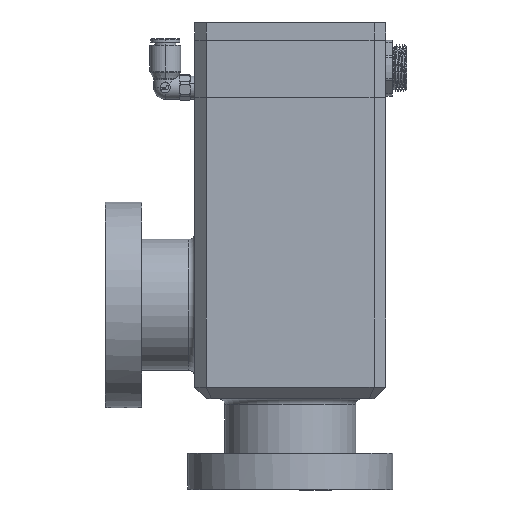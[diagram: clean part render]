
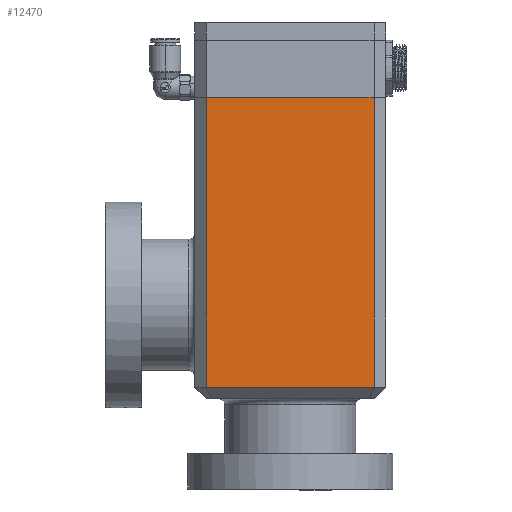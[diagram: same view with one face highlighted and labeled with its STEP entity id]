
A CAD part, front view. The second image highlights one B-rep face of the part: STEP entity #12470.
In plain terms, the highlighted planar face has unit normal (0, -1, 0).
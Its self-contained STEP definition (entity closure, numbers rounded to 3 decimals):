
#5746 = LINE ( 'NONE', #20810, #34606 ) ;
#6746 = LINE ( 'NONE', #30788, #37346 ) ;
#6750 = VERTEX_POINT ( 'NONE', #14326 ) ;
#11840 = EDGE_CURVE ( 'NONE', #59086, #6750, #5746, .T. ) ;
#12470 = ADVANCED_FACE ( 'NONE', ( #56128 ), #50998, .F. ) ;
#14326 = CARTESIAN_POINT ( 'NONE',  ( 28.5, -32.5, 102.5 ) ) ;
#16576 = VERTEX_POINT ( 'NONE', #30795 ) ;
#17773 = VECTOR ( 'NONE', #32027, 1000. ) ;
#19546 = EDGE_CURVE ( 'NONE', #59086, #16576, #27511, .T. ) ;
#20810 = CARTESIAN_POINT ( 'NONE',  ( -32.5, -32.5, 102.5 ) ) ;
#20865 = DIRECTION ( 'NONE',  ( 0., 1., 0. ) ) ;
#21486 = CARTESIAN_POINT ( 'NONE',  ( -32.5, -32.5, 102.5 ) ) ;
#27511 = LINE ( 'NONE', #47094, #17773 ) ;
#30788 = CARTESIAN_POINT ( 'NONE',  ( 22.843, -32.5, 4. ) ) ;
#30795 = CARTESIAN_POINT ( 'NONE',  ( -28.5, -32.5, 4. ) ) ;
#32027 = DIRECTION ( 'NONE',  ( 0., 0., -1. ) ) ;
#32752 = CARTESIAN_POINT ( 'NONE',  ( 28.5, -32.5, 4. ) ) ;
#34018 = EDGE_LOOP ( 'NONE', ( #39187, #36383, #63455, #44698 ) ) ;
#34606 = VECTOR ( 'NONE', #49682, 1000. ) ;
#34936 = DIRECTION ( 'NONE',  ( 0., 0., 1. ) ) ;
#36383 = ORIENTED_EDGE ( 'NONE', *, *, #52150, .T. ) ;
#37346 = VECTOR ( 'NONE', #45556, 1000. ) ;
#37649 = AXIS2_PLACEMENT_3D ( 'NONE', #21486, #20865, #45868 ) ;
#39187 = ORIENTED_EDGE ( 'NONE', *, *, #19546, .T. ) ;
#41700 = EDGE_CURVE ( 'NONE', #51857, #6750, #62864, .T. ) ;
#44698 = ORIENTED_EDGE ( 'NONE', *, *, #11840, .F. ) ;
#45556 = DIRECTION ( 'NONE',  ( 1., 0., 0. ) ) ;
#45868 = DIRECTION ( 'NONE',  ( 0., 0., 1. ) ) ;
#47094 = CARTESIAN_POINT ( 'NONE',  ( -28.5, -32.5, 102.5 ) ) ;
#49682 = DIRECTION ( 'NONE',  ( 1., 0., 0. ) ) ;
#50998 = PLANE ( 'NONE',  #37649 ) ;
#51857 = VERTEX_POINT ( 'NONE', #32752 ) ;
#52150 = EDGE_CURVE ( 'NONE', #16576, #51857, #6746, .T. ) ;
#56128 = FACE_OUTER_BOUND ( 'NONE', #34018, .T. ) ;
#57943 = CARTESIAN_POINT ( 'NONE',  ( -28.5, -32.5, 102.5 ) ) ;
#59086 = VERTEX_POINT ( 'NONE', #57943 ) ;
#59159 = VECTOR ( 'NONE', #34936, 1000. ) ;
#62864 = LINE ( 'NONE', #63176, #59159 ) ;
#63176 = CARTESIAN_POINT ( 'NONE',  ( 28.5, -32.5, 102.5 ) ) ;
#63455 = ORIENTED_EDGE ( 'NONE', *, *, #41700, .T. ) ;
